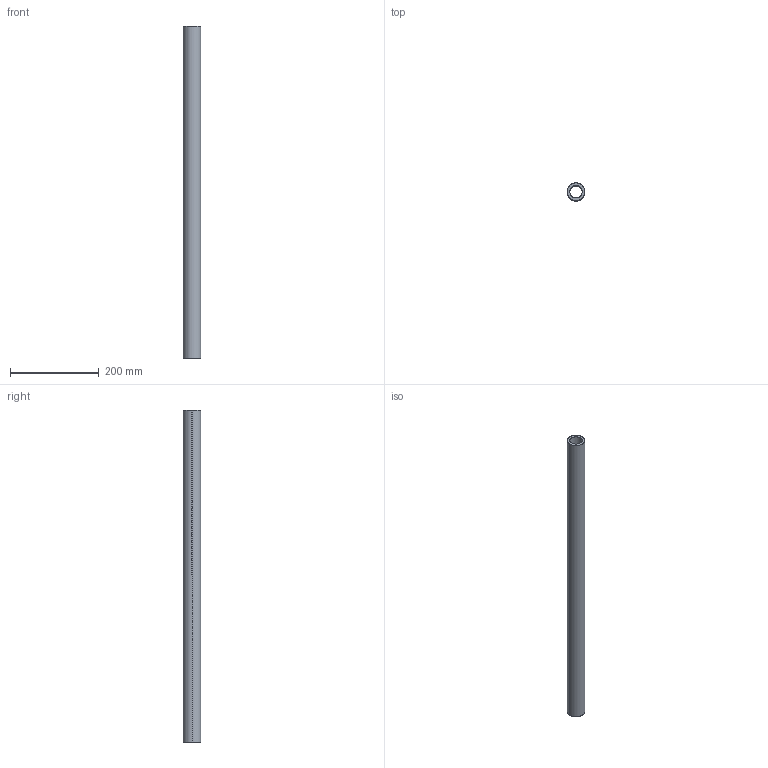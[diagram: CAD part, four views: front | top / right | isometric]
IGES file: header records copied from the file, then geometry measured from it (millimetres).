
Start section: SolidWorks IGES file using analytic representation for surfaces
Global section: file name: C:\Users\IanO\Desktop\L1771_v2\L1771.40_v2\L1771.40_v2_20230705_IGES\L1771.40-0750.igs; native system: SolidWorks 2019; preprocessor: SolidWorks 2019; author: IanO; date: 230705.160148; units: millimetre
Bounding box: 40 x 40 x 750 mm (x, y, z)
Surface area: 161503 mm2 (no closed solid volume)
Topology: 0 solids, 0 shells, 6 faces, 272 edges, 272 vertices
Faces by surface type: revolution 4, bspline 2
